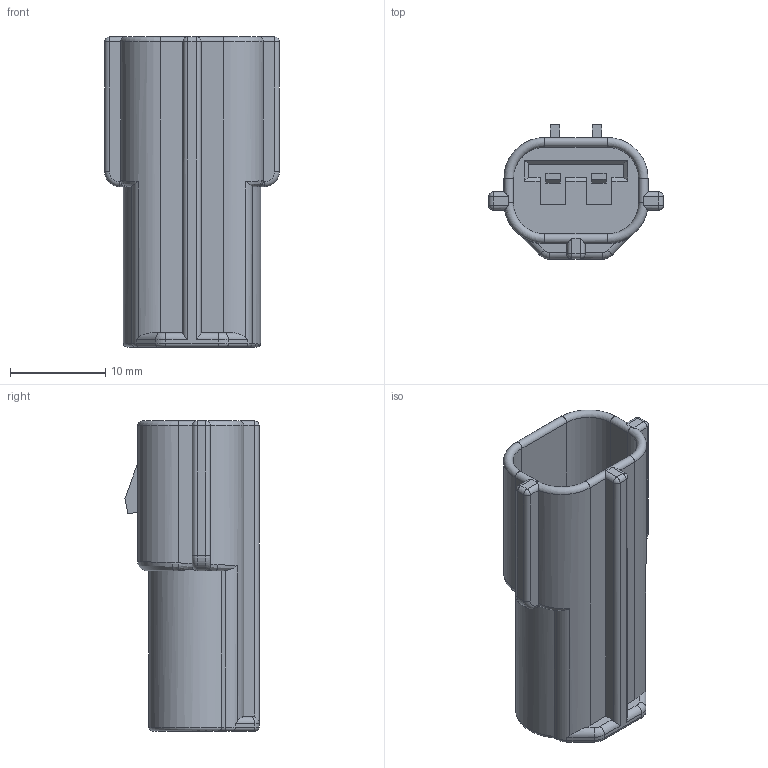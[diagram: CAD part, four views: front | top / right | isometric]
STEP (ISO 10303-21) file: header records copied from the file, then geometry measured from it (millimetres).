
FILE_DESCRIPTION((''),'2;1');
FILE_NAME('C-174354-2','2019-05-30T07:46:02',('workeradm'),('TE Connectivity Ltd.'),'CREO PARAMETRIC BY PTC INC, 2018190','CREO PARAMETRIC BY PTC INC, 2018190','');
FILE_SCHEMA(('AUTOMOTIVE_DESIGN { 1 0 10303 214 1 1 1 1 }'));
Length unit declared in the file: millimetre
Products named in the file (1): C-174354-2
Bounding box: 18.3 x 14.05 x 32.5 mm (x, y, z)
Volume: 3064.5 mm3; surface area: 2506.8 mm2
Topology: 1 solids, 1 shells, 166 faces, 393 edges, 236 vertices
Faces by surface type: plane 76, cylinder 53, torus 16, bspline 11, sphere 6, cone 4
Entity records: 6153 total; most frequent: CARTESIAN_POINT 2365, ORIENTED_EDGE 786, DIRECTION 767, EDGE_CURVE 393, AXIS2_PLACEMENT_3D 271, VERTEX_POINT 236, VECTOR 225, LINE 225
